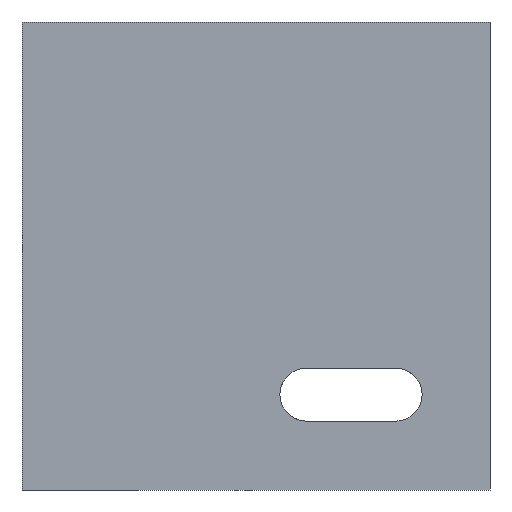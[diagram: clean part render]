
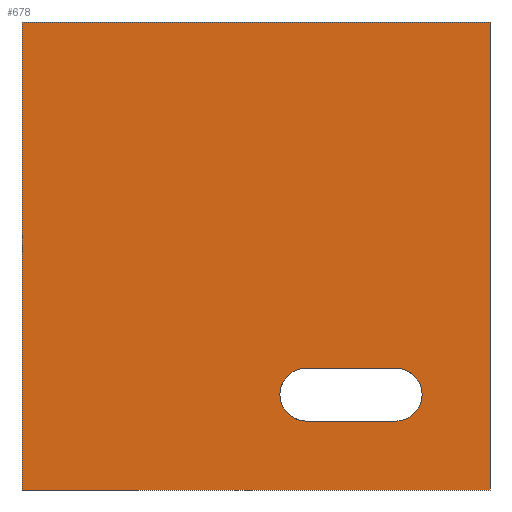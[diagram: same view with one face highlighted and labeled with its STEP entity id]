
A CAD part, front view. The second image highlights one B-rep face of the part: STEP entity #678.
In plain terms, the highlighted planar face has unit normal (0, -1, 0).
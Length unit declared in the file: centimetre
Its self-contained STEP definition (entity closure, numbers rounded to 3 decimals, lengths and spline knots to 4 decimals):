
#17 = CARTESIAN_POINT ( 'NONE',  ( 798.1912, 0., 260.6626 ) ) ;
#27 = ORIENTED_EDGE ( 'NONE', *, *, #450, .T. ) ;
#36 = VECTOR ( 'NONE', #391, 100. ) ;
#41 = CARTESIAN_POINT ( 'NONE',  ( 798.1912, 0., 203.889 ) ) ;
#47 = EDGE_CURVE ( 'NONE', #418, #164, #809, .T. ) ;
#68 = DIRECTION ( 'NONE',  ( -1., 0., 0. ) ) ;
#81 = EDGE_CURVE ( 'NONE', #157, #205, #460, .T. ) ;
#86 = EDGE_LOOP ( 'NONE', ( #660, #493, #423, #27 ) ) ;
#107 = CARTESIAN_POINT ( 'NONE',  ( 1000., 0., 0. ) ) ;
#109 = DIRECTION ( 'NONE',  ( 0., -1., 0. ) ) ;
#113 = FACE_BOUND ( 'NONE', #274, .T. ) ;
#124 = EDGE_CURVE ( 'NONE', #346, #418, #316, .T. ) ;
#133 = DIRECTION ( 'NONE',  ( 1., 0., 0. ) ) ;
#138 = CARTESIAN_POINT ( 'NONE',  ( 0., 0., 0. ) ) ;
#155 = VERTEX_POINT ( 'NONE', #264 ) ;
#157 = VERTEX_POINT ( 'NONE', #386 ) ;
#164 = VERTEX_POINT ( 'NONE', #107 ) ;
#192 = CARTESIAN_POINT ( 'NONE',  ( 0., 0., 1000. ) ) ;
#197 = CARTESIAN_POINT ( 'NONE',  ( 798.1912, 0., 260.6626 ) ) ;
#200 = EDGE_CURVE ( 'NONE', #760, #164, #462, .T. ) ;
#205 = VERTEX_POINT ( 'NONE', #197 ) ;
#229 = CARTESIAN_POINT ( 'NONE',  ( 1000., 0., 1000. ) ) ;
#237 = DIRECTION ( 'NONE',  ( 0., 0., -1. ) ) ;
#243 = LINE ( 'NONE', #751, #794 ) ;
#254 = DIRECTION ( 'NONE',  ( 0., 0., 1. ) ) ;
#262 = LINE ( 'NONE', #597, #36 ) ;
#264 = CARTESIAN_POINT ( 'NONE',  ( 607.7912, 0., 260.6626 ) ) ;
#265 = VECTOR ( 'NONE', #491, 100. ) ;
#274 = EDGE_LOOP ( 'NONE', ( #582, #561, #315, #544 ) ) ;
#313 = CARTESIAN_POINT ( 'NONE',  ( 0., 0., 1000. ) ) ;
#315 = ORIENTED_EDGE ( 'NONE', *, *, #766, .F. ) ;
#316 = LINE ( 'NONE', #453, #653 ) ;
#328 = CARTESIAN_POINT ( 'NONE',  ( 607.7912, 0., 147.1155 ) ) ;
#334 = DIRECTION ( 'NONE',  ( 1., 0., 0. ) ) ;
#346 = VERTEX_POINT ( 'NONE', #313 ) ;
#359 = VECTOR ( 'NONE', #68, 100. ) ;
#386 = CARTESIAN_POINT ( 'NONE',  ( 798.1912, 0., 147.1155 ) ) ;
#391 = DIRECTION ( 'NONE',  ( 1., 0., 0. ) ) ;
#398 = DIRECTION ( 'NONE',  ( 0., 0., -1. ) ) ;
#418 = VERTEX_POINT ( 'NONE', #690 ) ;
#423 = ORIENTED_EDGE ( 'NONE', *, *, #124, .F. ) ;
#427 = CARTESIAN_POINT ( 'NONE',  ( 607.7912, 0., 203.889 ) ) ;
#447 = VECTOR ( 'NONE', #133, 100. ) ;
#450 = EDGE_CURVE ( 'NONE', #346, #760, #243, .T. ) ;
#453 = CARTESIAN_POINT ( 'NONE',  ( 0., 0., 1000. ) ) ;
#460 = CIRCLE ( 'NONE', #722, 56.7736 ) ;
#461 = EDGE_CURVE ( 'NONE', #155, #795, #530, .T. ) ;
#462 = LINE ( 'NONE', #725, #447 ) ;
#491 = DIRECTION ( 'NONE',  ( 0., 0., -1. ) ) ;
#493 = ORIENTED_EDGE ( 'NONE', *, *, #47, .F. ) ;
#504 = DIRECTION ( 'NONE',  ( 0., 0., -1. ) ) ;
#520 = LINE ( 'NONE', #17, #359 ) ;
#530 = CIRCLE ( 'NONE', #612, 56.7736 ) ;
#544 = ORIENTED_EDGE ( 'NONE', *, *, #81, .F. ) ;
#561 = ORIENTED_EDGE ( 'NONE', *, *, #461, .F. ) ;
#582 = ORIENTED_EDGE ( 'NONE', *, *, #803, .F. ) ;
#597 = CARTESIAN_POINT ( 'NONE',  ( 607.7912, 0., 147.1155 ) ) ;
#612 = AXIS2_PLACEMENT_3D ( 'NONE', #427, #109, #237 ) ;
#653 = VECTOR ( 'NONE', #334, 100. ) ;
#657 = DIRECTION ( 'NONE',  ( 0., -1., 0. ) ) ;
#660 = ORIENTED_EDGE ( 'NONE', *, *, #200, .T. ) ;
#678 = ADVANCED_FACE ( 'NONE', ( #113, #699 ), #832, .F. ) ;
#681 = AXIS2_PLACEMENT_3D ( 'NONE', #192, #763, #254 ) ;
#690 = CARTESIAN_POINT ( 'NONE',  ( 1000., 0., 1000. ) ) ;
#699 = FACE_OUTER_BOUND ( 'NONE', #86, .T. ) ;
#722 = AXIS2_PLACEMENT_3D ( 'NONE', #41, #657, #398 ) ;
#725 = CARTESIAN_POINT ( 'NONE',  ( 0., 0., 0. ) ) ;
#751 = CARTESIAN_POINT ( 'NONE',  ( 0., 0., 1000. ) ) ;
#760 = VERTEX_POINT ( 'NONE', #138 ) ;
#763 = DIRECTION ( 'NONE',  ( 0., 1., 0. ) ) ;
#766 = EDGE_CURVE ( 'NONE', #205, #155, #520, .T. ) ;
#794 = VECTOR ( 'NONE', #504, 100. ) ;
#795 = VERTEX_POINT ( 'NONE', #328 ) ;
#803 = EDGE_CURVE ( 'NONE', #795, #157, #262, .T. ) ;
#809 = LINE ( 'NONE', #229, #265 ) ;
#832 = PLANE ( 'NONE',  #681 ) ;
